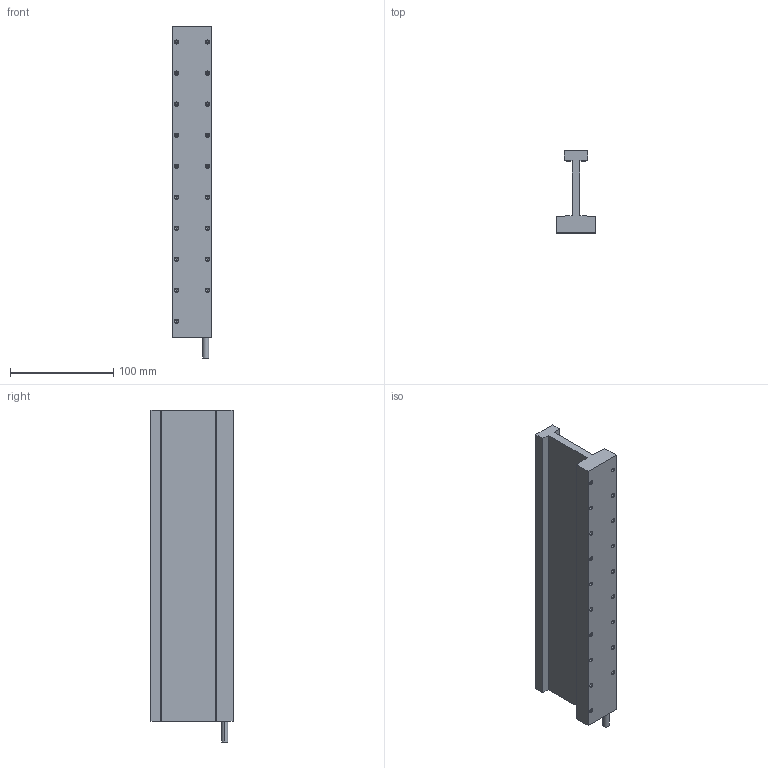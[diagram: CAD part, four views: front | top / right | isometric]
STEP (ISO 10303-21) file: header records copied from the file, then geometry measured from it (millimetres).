
FILE_DESCRIPTION (( 'STEP AP214' ), '1' );
FILE_NAME ('JKB45.STEP', '2025-09-05T12:49:46', ( '' ), ( '' ), 'SwSTEP 2.0', 'SolidWorks 2016', '' );
FILE_SCHEMA (( 'AUTOMOTIVE_DESIGN' ));
Length unit declared in the file: millimetre
Products named in the file (1): JKB45
Bounding box: 38.5 x 79.3 x 321 mm (x, y, z)
Volume: 373667.4 mm3; surface area: 84475.7 mm2
Topology: 1 solids, 1 shells, 131 faces, 308 edges, 161 vertices
Faces by surface type: cone 76, cylinder 40, plane 15
Entity records: 3878 total; most frequent: DIRECTION 652, CARTESIAN_POINT 563, ORIENTED_EDGE 540, EDGE_CURVE 270, AXIS2_PLACEMENT_3D 250, VERTEX_POINT 161, LINE 152, VECTOR 152
